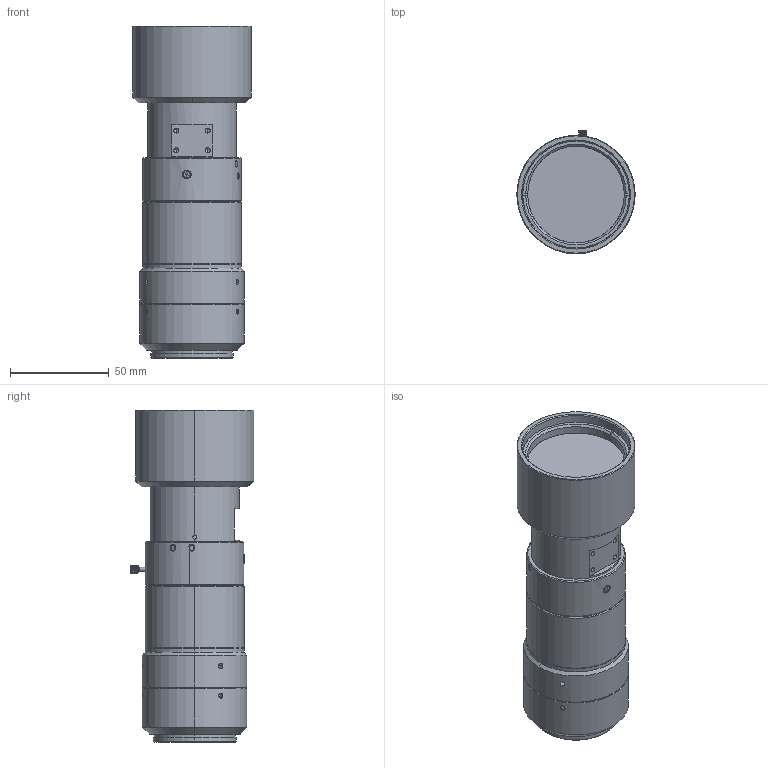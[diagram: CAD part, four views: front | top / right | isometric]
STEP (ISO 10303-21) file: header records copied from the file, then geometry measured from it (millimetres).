
FILE_DESCRIPTION (( 'STEP AP203' ), '1' );
FILE_NAME ('A22631A0000101A.STEP', '2016-11-30T05:55:53', ( '' ), ( '' ), 'SwSTEP 2.0', 'SolidWorks 2014', '' );
FILE_SCHEMA (( 'CONFIG_CONTROL_DESIGN' ));
Length unit declared in the file: millimetre
Products named in the file (1): A22631A0000101A
Bounding box: 60 x 62.75 x 168.28 mm (x, y, z)
Volume: 322792.4 mm3; surface area: 38088.4 mm2
Topology: 1 solids, 1 shells, 433 faces, 1137 edges, 738 vertices
Faces by surface type: cylinder 169, plane 154, cone 74, bspline 36
Entity records: 21510 total; most frequent: CARTESIAN_POINT 11571, ORIENTED_EDGE 2258, DIRECTION 1731, EDGE_CURVE 1129, VERTEX_POINT 738, AXIS2_PLACEMENT_3D 646, EDGE_LOOP 473, VECTOR 439
